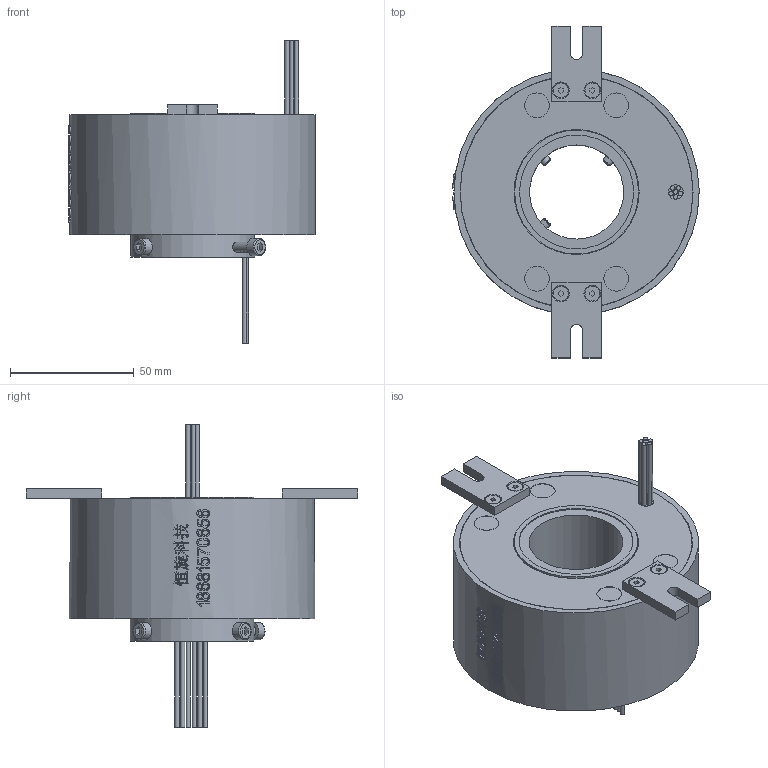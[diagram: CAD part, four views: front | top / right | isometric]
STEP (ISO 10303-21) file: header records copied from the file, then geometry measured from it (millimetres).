
FILE_DESCRIPTION(/* description */ (''),/* implementation_level */ '2;1');
FILE_NAME(/* name */ 'HD3899-0610-3D模型.stp',/* time_stamp */ '2025-09-04T08:45:14+08:00',/* author */ (''),/* organization */ (''),/* preprocessor_version */ 'ST-DEVELOPER v16.7',/* originating_system */ 'SIEMENS PLM Software NX 12.0',/* authorisation */ '');
FILE_SCHEMA (('AUTOMOTIVE_DESIGN { 1 0 10303 214 3 1 1 1 }'));
Length unit declared in the file: millimetre
Products named in the file (1): Admi3138F06C1fau
Bounding box: 99.48 x 134 x 122.1 mm (x, y, z)
Volume: 331967.4 mm3; surface area: 42681.4 mm2
Topology: 1 solids, 1 shells, 766 faces, 2017 edges, 1342 vertices
Faces by surface type: plane 348, extrusion 313, cylinder 63, bspline 30, cone 8, torus 4
Full cylindrical faces by diameter (mm): 1.8 x12, 3.4 x1, 4 x7, 6 x5, 7 x4, 10 x4, 38 x1, 46 x1, 50 x2, 50.5 x2, 93.9 x2, 94 x2, 99 x1
Entity records: 29321 total; most frequent: CARTESIAN_POINT 13124, ORIENTED_EDGE 3884, DIRECTION 2043, EDGE_CURVE 1942, B_SPLINE_CURVE_WITH_KNOTS 1644, VERTEX_POINT 1323, EDGE_LOOP 917, ADVANCED_FACE 766
